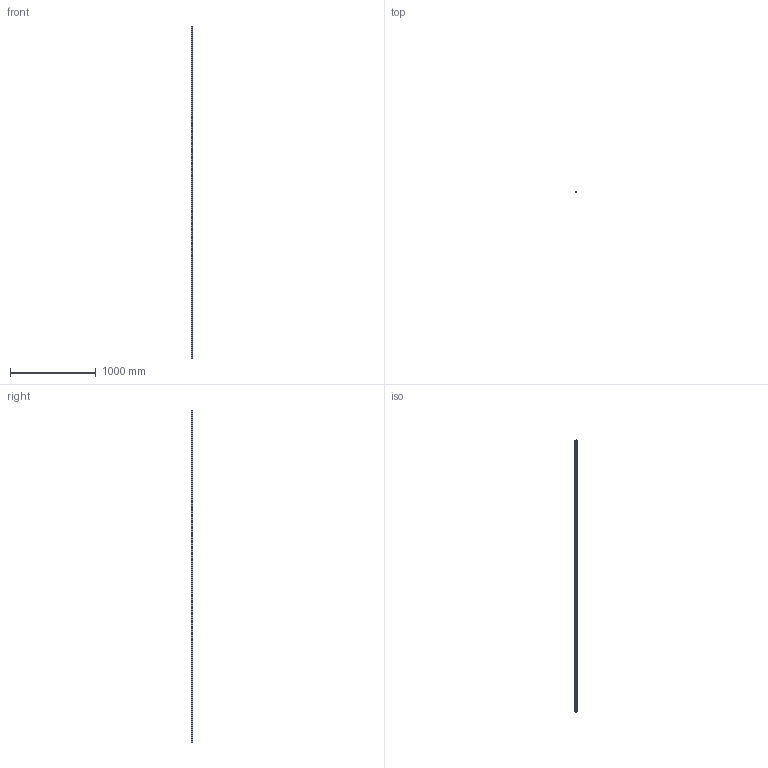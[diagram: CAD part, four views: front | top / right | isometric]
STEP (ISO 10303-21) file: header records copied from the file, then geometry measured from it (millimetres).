
FILE_DESCRIPTION (( 'STEP AP203' ), '1' );
FILE_NAME ('L1016.BL20-3880.step', '2019-06-12T11:58:58', ( '' ), ( '' ), 'SwSTEP 2.0', 'SolidWorks 2017', '' );
FILE_SCHEMA (( 'CONFIG_CONTROL_DESIGN' ));
Length unit declared in the file: millimetre
Products named in the file (1): L1016.BL20-3880
Bounding box: 20 x 16.3 x 3880 mm (x, y, z)
Volume: 1078616.5 mm3; surface area: 311871 mm2
Topology: 1 solids, 1 shells, 351 faces, 852 edges, 568 vertices
Faces by surface type: cylinder 264, plane 87
Entity records: 10911 total; most frequent: DIRECTION 2084, CARTESIAN_POINT 1772, ORIENTED_EDGE 1704, AXIS2_PLACEMENT_3D 880, EDGE_CURVE 852, VERTEX_POINT 568, EDGE_LOOP 546, CIRCLE 528
